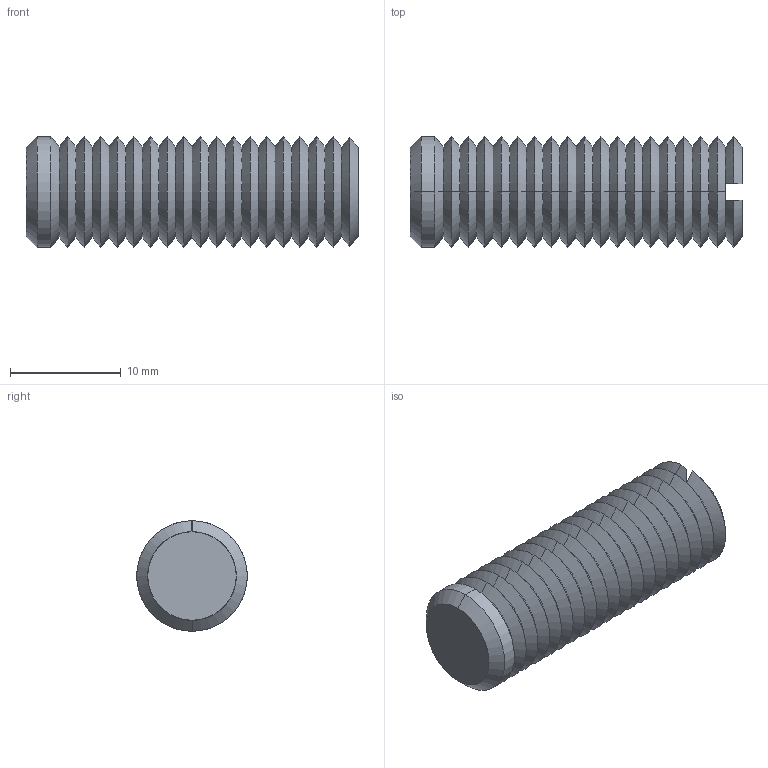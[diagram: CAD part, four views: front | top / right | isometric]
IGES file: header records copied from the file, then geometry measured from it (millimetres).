
Start section: SolidWorks IGES file using analytic representation for surfaces
Global section: file name: C:\Documents and Settings\IANO\Desktop\Temp File\Process pending\EXISTING\34300_v2\34300_v2_20170622_IGES\34300.W0101.igs; native system: SolidWorks 2009; preprocessor: SolidWorks 2009; author: IANO; date: 170622.093944; units: millimetre
Bounding box: 30 x 10 x 10 mm (x, y, z)
Surface area: 1465.2 mm2 (no closed solid volume)
Topology: 0 solids, 0 shells, 84 faces, 400 edges, 400 vertices
Faces by surface type: revolution 78, bspline 6
